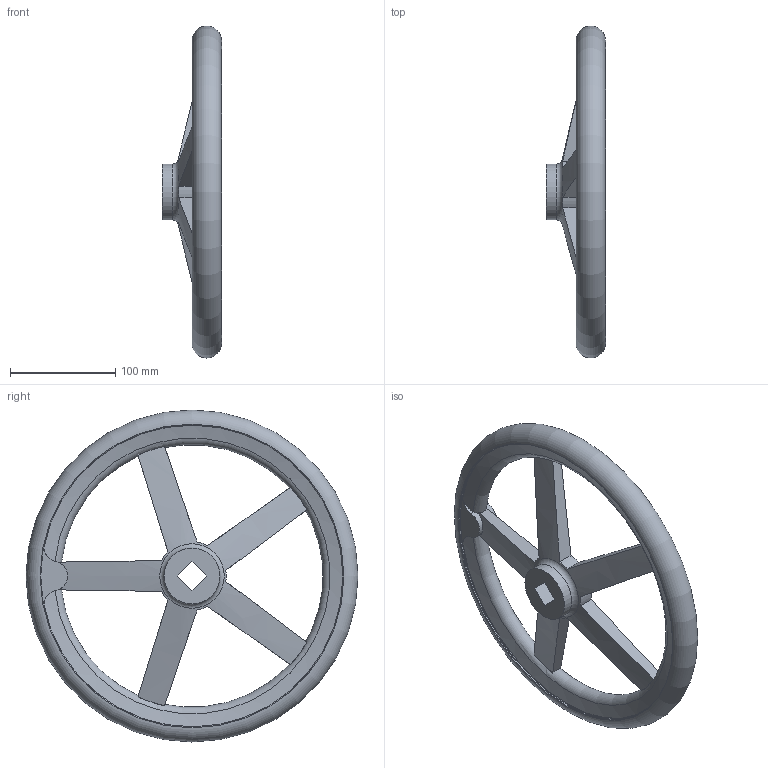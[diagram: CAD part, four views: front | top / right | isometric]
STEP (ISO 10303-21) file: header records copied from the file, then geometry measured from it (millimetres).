
FILE_DESCRIPTION( ( 'STEP AP203' ), '1' );
FILE_NAME( 'C:/Temp/Ganter_Step_05_03_2020/data/1_3/din_950/din_950_v/din_950_v_a/Handwheel DIN 950-GG-315-V19-A.stp', '2020-03-05T10:31:34', ( 'License CC BY-ND 4.0' ), ( 'CADENAS' ), ' ', 'PARTsolutions', ' ' );
FILE_SCHEMA( ( 'CONFIG_CONTROL_DESIGN' ) );
Length unit declared in the file: millimetre
Products named in the file (1): _Handwheel DIN 950-GG-315-V19-A
Bounding box: 56 x 314.99 x 314.99 mm (x, y, z)
Volume: 817227.2 mm3; surface area: 136319.7 mm2
Topology: 1 solids, 1 shells, 57 faces, 173 edges, 112 vertices
Faces by surface type: torus 20, plane 18, cylinder 15, cone 4
Full cylindrical faces by diameter (mm): 53 x2, 287 x2
Entity records: 2467 total; most frequent: CARTESIAN_POINT 1018, ORIENTED_EDGE 312, DIRECTION 258, EDGE_CURVE 156, AXIS2_PLACEMENT_3D 116, VERTEX_POINT 109, EDGE_LOOP 76, B_SPLINE_CURVE_WITH_KNOTS 72
